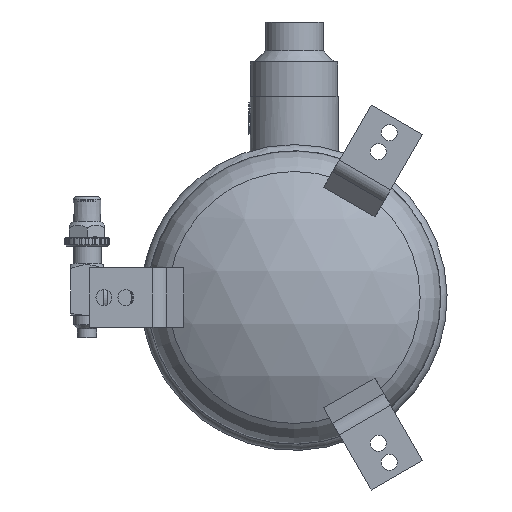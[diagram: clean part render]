
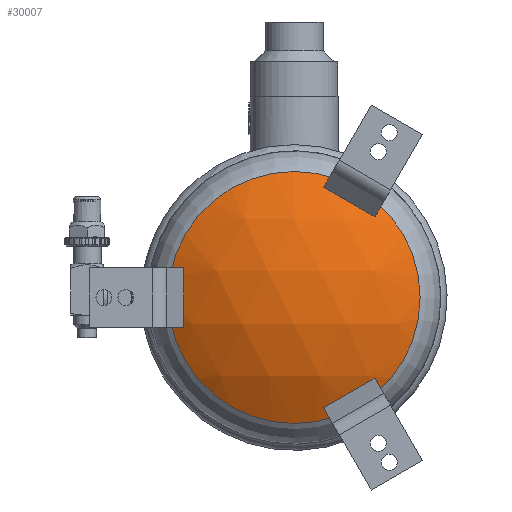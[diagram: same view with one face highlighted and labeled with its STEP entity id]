
A CAD part, front view. The second image highlights one B-rep face of the part: STEP entity #30007.
In plain terms, the highlighted spherical face has radius 159 mm.
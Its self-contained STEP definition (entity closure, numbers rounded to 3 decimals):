
#217=SPHERICAL_SURFACE('',#31321,159.);
#3903=CIRCLE('',#31319,85.047);
#5557=FACE_OUTER_BOUND('',#7457,.T.);
#7457=EDGE_LOOP('',(#26541));
#13933=VERTEX_POINT('',#222341);
#18209=EDGE_CURVE('',#13933,#13933,#3903,.T.);
#26541=ORIENTED_EDGE('',*,*,#18209,.T.);
#30007=ADVANCED_FACE('',(#5557),#217,.T.);
#31319=AXIS2_PLACEMENT_3D('',#222342,#35475,#35476);
#31321=AXIS2_PLACEMENT_3D('',#222344,#35479,#35480);
#35475=DIRECTION('center_axis',(0.,-1.,0.));
#35476=DIRECTION('ref_axis',(-1.,0.,0.));
#35479=DIRECTION('center_axis',(0.,0.,
-1.));
#35480=DIRECTION('ref_axis',(1.,0.,0.));
#222341=CARTESIAN_POINT('',(-85.047,-303.843,0.));
#222342=CARTESIAN_POINT('Origin',(0.,-303.843,
0.));
#222344=CARTESIAN_POINT('Origin',(0.,-169.5,0.));
